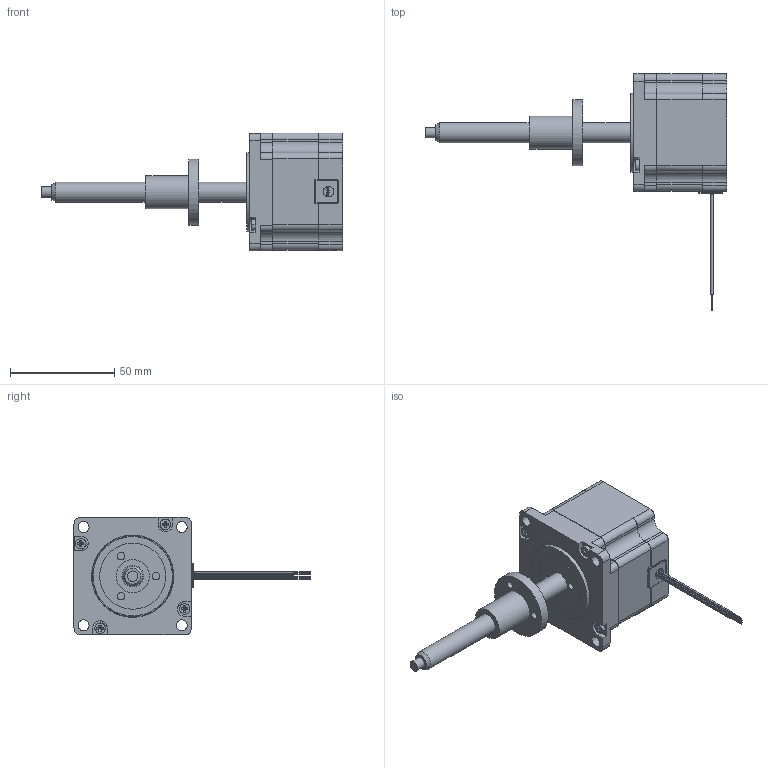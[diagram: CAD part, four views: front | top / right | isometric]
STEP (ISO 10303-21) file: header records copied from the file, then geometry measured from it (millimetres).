
FILE_DESCRIPTION( ('This file contains a STEP AP42 implementation' ,'as created by ZW3D STEP Interface translator.' ,'') ,'2;1' );
FILE_NAME( '57EA4X-XX-XXX.stp' ,'26 1 4. 84514', (''), ('ZWCAD Software Co.'), 'Version 1.0', 'ZW3D to STEP translator', '' );
FILE_SCHEMA(('AUTOMOTIVE_DESIGN { 1 0 10303 214 1 1 1 1 }'));
Length unit declared in the file: millimetre
Products named in the file (1): 0
Bounding box: 144.5 x 113.3 x 56.6 mm (x, y, z)
Volume: 57919.3 mm3; surface area: 38611.5 mm2
Topology: 8 solids, 8 shells, 566 faces, 1477 edges, 966 vertices
Faces by surface type: plane 341, cylinder 167, bspline 35, torus 16, cone 7
Full cylindrical faces by diameter (mm): 2.5 x4, 3.3 x2, 3.56 x3, 5 x1, 5.21 x4, 6.6 x1, 9.53 x2, 10.34 x2, 11.1 x1, 14.27 x1, 15.875 x1, 21.95 x1, 28 x4, 31.75 x1, 34.82 x1, 38.1 x1, 50.437 x2
Entity records: 19158 total; most frequent: CARTESIAN_POINT 4573, ORIENTED_EDGE 2950, DIRECTION 2841, EDGE_CURVE 1475, AXIS2_PLACEMENT_3D 972, VERTEX_POINT 966, VECTOR 897, LINE 897
